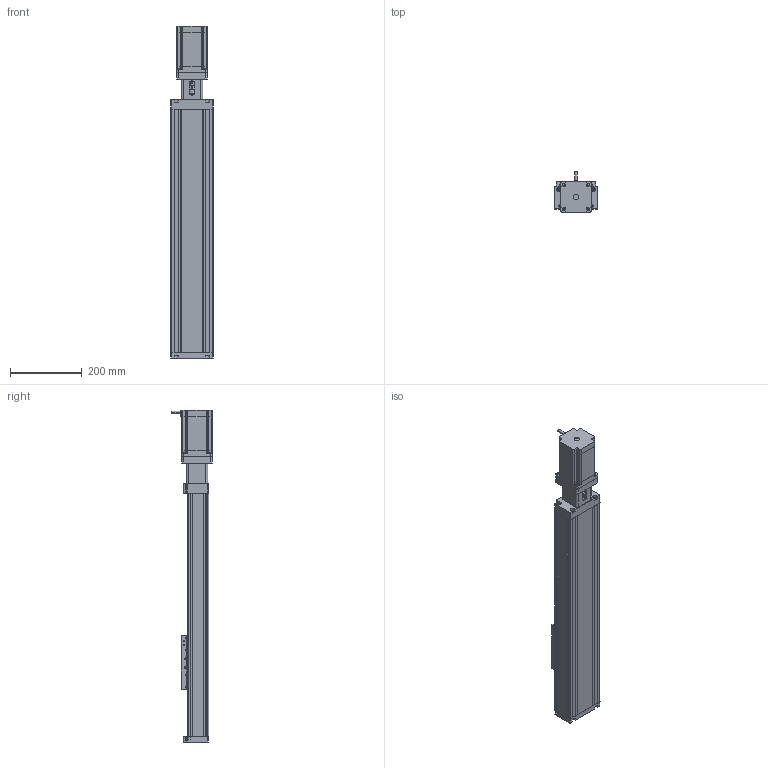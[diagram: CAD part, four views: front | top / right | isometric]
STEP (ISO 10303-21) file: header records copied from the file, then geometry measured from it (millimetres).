
FILE_DESCRIPTION (( 'STEP AP203' ), '1' );
FILE_NAME ('PCH120C7L10E500BC.STEP', '2020-09-04T05:34:35', ( '' ), ( '' ), 'SwSTEP 2.0', 'SolidWorks 2016', '' );
FILE_SCHEMA (( 'CONFIG_CONTROL_DESIGN' ));
Length unit declared in the file: millimetre
Products named in the file (25): 裔啣ㄗ120Sㄘ; PCH120C7L10E500BC; 佪裝SFS16-120-746; 60萇儂徹傾釱; 蟀諉輸ㄗ120Sㄘ; 綴蟀諉啣ㄗ120Sㄘ; M5x16 内六角圆柱头螺钉_M5x16; 6000 旮僱⑩粣創; FM86128SJT03 步进电机_不带刹车; 祥凄詩湍-700; HGH15CA（方） 方滑块; 120臏倰第-680; ヶ蟀諉啣ㄗ120Sㄘ; 滅袉輸ㄗ120Sㄘ; 迍啣ㄗ120Sㄘ; 徹蚐輸ㄗ120Sㄘ; 肣杶囀噤12; 婦蝶謫耳8.5-70; 7201C 褒諉揖⑩粣創; 徹蚐遠ㄗ120Sㄘ; FLK8-3035 繩豪薊粣ん_FLK8-3035-1014; 1610螺母 滚珠丝杆螺母; M12℅1 佪裝坶踡蹟譫; HRH15-690_佪裝 俴最600; 萇儂蟀諉楊擘ㄗ86ㄘ
Assembly tree (34 placements, depth 2):
  PCH120C7L10E500BC
    120臏倰第-680
    HRH15-690_佪裝 俴最600  x2
    HGH15CA（方） 方滑块  x4
    蟀諉輸ㄗ120Sㄘ
    1610螺母 滚珠丝杆螺母
    M5x16 内六角圆柱头螺钉_M5x16  x4
    綴蟀諉啣ㄗ120Sㄘ
    ヶ蟀諉啣ㄗ120Sㄘ
    萇儂蟀諉楊擘ㄗ86ㄘ
    60萇儂徹傾釱
    7201C 褒諉揖⑩粣創  x2
    6000 旮僱⑩粣創
    佪裝SFS16-120-746
    肣杶囀噤12
    M12℅1 佪裝坶踡蹟譫
    迍啣ㄗ120Sㄘ
    滅袉輸ㄗ120Sㄘ  x2
    徹蚐輸ㄗ120Sㄘ  x2
    徹蚐遠ㄗ120Sㄘ
    裔啣ㄗ120Sㄘ
    FM86128SJT03 步进电机_不带刹车
    婦蝶謫耳8.5-70
    FLK8-3035 繩豪薊粣ん_FLK8-3035-1014
    祥凄詩湍-700
Bounding box: 120 x 114 x 927 mm (x, y, z)
Volume: 3513647 mm3; surface area: 1094870.8 mm2
Topology: 40 solids, 40 shells, 3080 faces, 7807 edges, 4801 vertices
Faces by surface type: plane 1213, cylinder 1061, cone 522, bspline 210, torus 54, sphere 20
Entity records: 76511 total; most frequent: CARTESIAN_POINT 19469, DIRECTION 11616, ORIENTED_EDGE 11154, EDGE_CURVE 5577, AXIS2_PLACEMENT_3D 4441, VERTEX_POINT 3500, VECTOR 2734, LINE 2734
